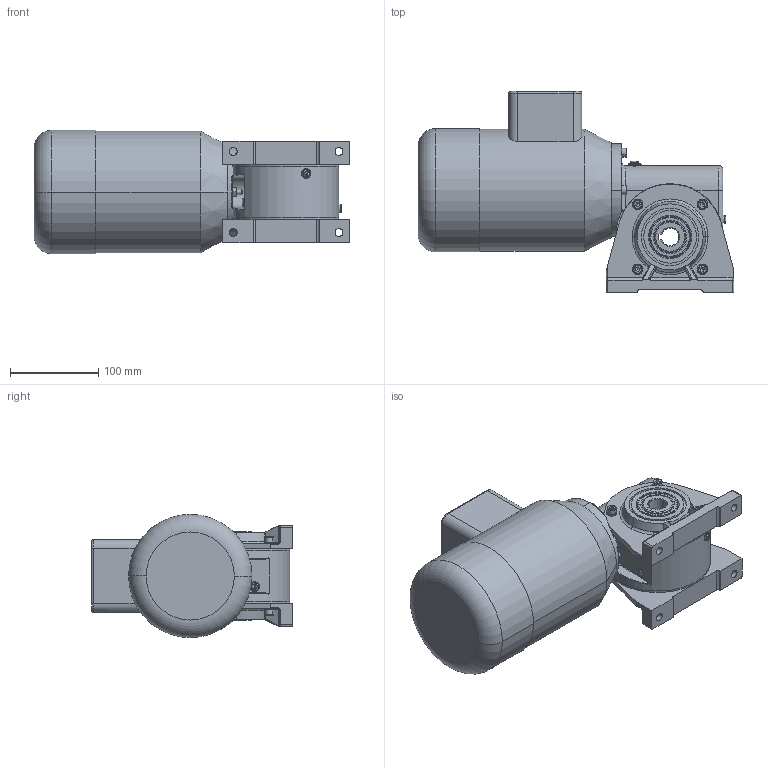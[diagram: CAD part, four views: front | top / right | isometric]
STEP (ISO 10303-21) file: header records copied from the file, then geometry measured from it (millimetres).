
FILE_DESCRIPTION (( 'STEP AP214' ), '1' );
FILE_NAME ('SN8SHH_370W_1400Upm_Drehstrom-Motor_D.STEP', '2021-09-21T09:02:39', ( '' ), ( '' ), 'SwSTEP 2.0', 'SolidWorks 2019', '' );
FILE_SCHEMA (( 'AUTOMOTIVE_DESIGN' ));
Length unit declared in the file: millimetre
Products named in the file (13): SN8SHH_370W_1400Upm_Drehstrom-Motor_D; hex nut style 1 gradeab_din_Hexagon Nut ISO 4032 - M6 - D - C; socket set screw flat point_din_DIN 913 - M6 x 25-C; SN8SHH_3D_Export; 08FH-W-001_3D_Export; Kupferscheibe Ø6x12x1,5 DIN7603 A; 08B-G-003_3D_Export; socket head cap screw_din_DIN 912 M6 x 20 --- 20C; 08-M-164 I 370W_1400Upm; U-Seal Ring Ø5; slotted pan head screw_din_DIN EN ISO 1580 - M5 x 6 - 6C; NBR_WDR_35x47x7; 08SHH-D-001_3D_Export
Assembly tree (37 placements, depth 3):
  SN8SHH_370W_1400Upm_Drehstrom-Motor_D
    SN8SHH_3D_Export
      08B-G-003_3D_Export
      08FH-W-001_3D_Export
      08SHH-D-001_3D_Export  x2
      NBR_WDR_35x47x7  x2
      socket head cap screw_din_DIN 912 M6 x 20 --- 20C  x11
      slotted pan head screw_din_DIN EN ISO 1580 - M5 x 6 - 6C  x4
      socket set screw flat point_din_DIN 913 - M6 x 25-C
      hex nut style 1 gradeab_din_Hexagon Nut ISO 4032 - M6 - D - C
      Kupferscheibe Ø6x12x1,5 DIN7603 A  x8
      U-Seal Ring Ø5  x4
    08-M-164 I 370W_1400Upm
Bounding box: 358.5 x 228 x 140 mm (x, y, z)
Volume: 4787748.1 mm3; surface area: 343660.5 mm2
Topology: 36 solids, 36 shells, 970 faces, 2190 edges, 1320 vertices
Faces by surface type: cylinder 346, plane 342, cone 127, torus 104, bspline 51
Entity records: 16289 total; most frequent: CARTESIAN_POINT 5122, DIRECTION 2295, ORIENTED_EDGE 2086, EDGE_CURVE 1043, AXIS2_PLACEMENT_3D 950, VERTEX_POINT 645, EDGE_LOOP 530, CIRCLE 484
